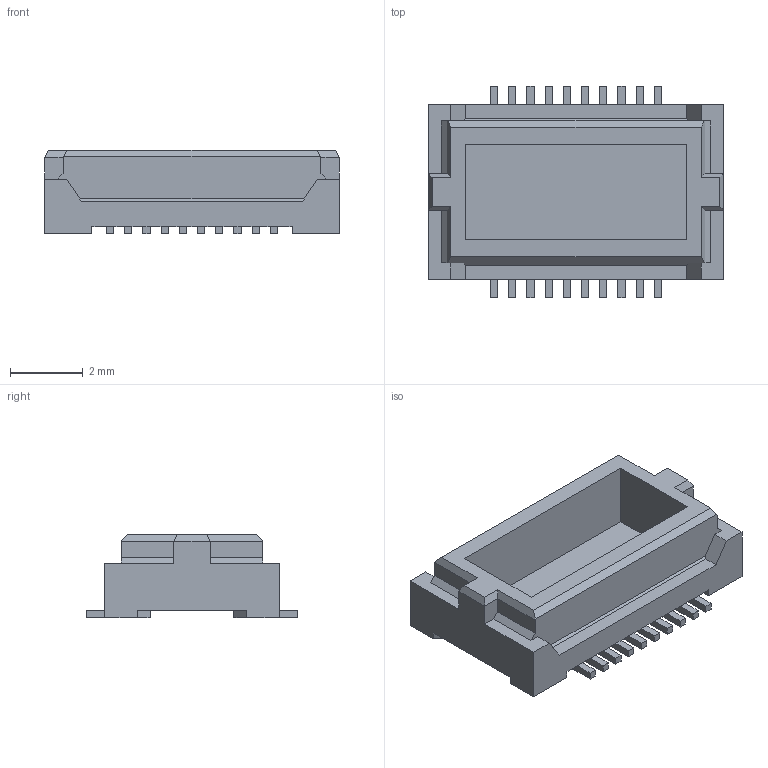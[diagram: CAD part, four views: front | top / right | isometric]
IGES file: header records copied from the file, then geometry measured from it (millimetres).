
Start section: SolidWorks IGES file using analytic representation for surfaces
Global section: file name: N:\Kamikawa_Hisako\★三次元モデル作成依頼\5046\X4_5046_XXX_XXX_XXX+_HP見直し\PLUG\14_5046_XXX_030(530)_XXX+\SOLID_PART\10_5046_020_030(530)_XXX+.IGS,15HSolidWorks; native system: 2017; preprocessor: SolidWorks 2017; author: HISAKO.KAMIKAWA.FJ; date: 211109.113050; units: millimetre
Bounding box: 8.1 x 5.8 x 2.3 mm (x, y, z)
Surface area: 180.2 mm2 (no closed solid volume)
Topology: 0 solids, 0 shells, 189 faces, 1268 edges, 1268 vertices
Faces by surface type: bspline 169, revolution 20
